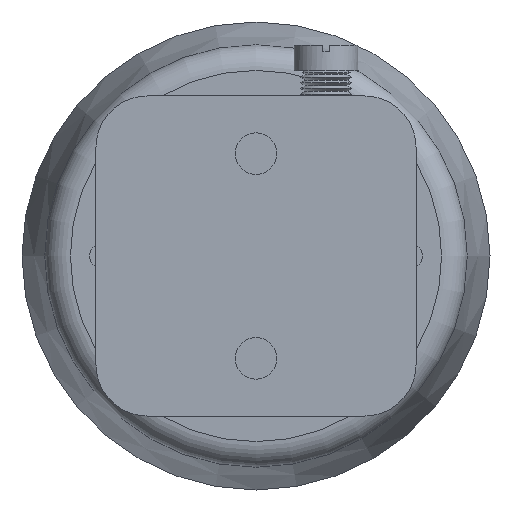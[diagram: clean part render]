
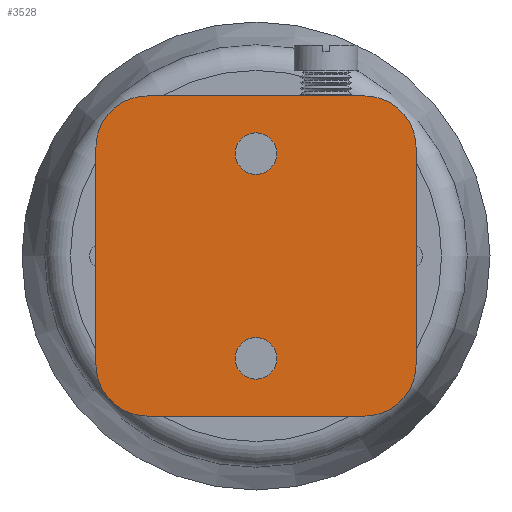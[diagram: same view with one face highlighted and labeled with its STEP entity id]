
A CAD part, front view. The second image highlights one B-rep face of the part: STEP entity #3528.
In plain terms, the highlighted planar face has unit normal (0, -1, 0).
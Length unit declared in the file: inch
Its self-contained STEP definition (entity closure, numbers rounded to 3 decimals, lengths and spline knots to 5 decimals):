
#75 = CARTESIAN_POINT ( 'NONE',  ( 1.0625, -2.255, -1.5625 ) ) ;
#198 = CARTESIAN_POINT ( 'NONE',  ( 1.0625, -2.255, -1.0625 ) ) ;
#199 = DIRECTION ( 'NONE',  ( 0., -1., 0. ) ) ;
#200 = DIRECTION ( 'NONE',  ( -1., 0., 0. ) ) ;
#289 = CIRCLE ( 'NONE', #5066, 0.203 ) ;
#292 = LINE ( 'NONE', #5192, #300 ) ;
#300 = VECTOR ( 'NONE', #5206, 39.37008 ) ;
#453 = EDGE_LOOP ( 'NONE', ( #1392, #1179, #558, #584, #599, #1187, #594, #1163 ) ) ;
#519 = VERTEX_POINT ( 'NONE', #2575 ) ;
#532 = VERTEX_POINT ( 'NONE', #2588 ) ;
#546 = EDGE_LOOP ( 'NONE', ( #1380 ) ) ;
#547 = EDGE_LOOP ( 'NONE', ( #662 ) ) ;
#558 = ORIENTED_EDGE ( 'NONE', *, *, #3912, .F. ) ;
#584 = ORIENTED_EDGE ( 'NONE', *, *, #3578, .T. ) ;
#594 = ORIENTED_EDGE ( 'NONE', *, *, #3588, .F. ) ;
#599 = ORIENTED_EDGE ( 'NONE', *, *, #3604, .F. ) ;
#662 = ORIENTED_EDGE ( 'NONE', *, *, #3581, .T. ) ;
#1072 = AXIS2_PLACEMENT_3D ( 'NONE', #2133, #2129, #2135 ) ;
#1163 = ORIENTED_EDGE ( 'NONE', *, *, #4021, .T. ) ;
#1179 = ORIENTED_EDGE ( 'NONE', *, *, #3969, .T. ) ;
#1187 = ORIENTED_EDGE ( 'NONE', *, *, #4022, .T. ) ;
#1380 = ORIENTED_EDGE ( 'NONE', *, *, #3905, .T. ) ;
#1392 = ORIENTED_EDGE ( 'NONE', *, *, #3595, .F. ) ;
#1694 = CIRCLE ( 'NONE', #2982, 0.5 ) ;
#1702 = CIRCLE ( 'NONE', #3002, 0.203 ) ;
#1712 = LINE ( 'NONE', #1834, #1715 ) ;
#1715 = VECTOR ( 'NONE', #1846, 39.37008 ) ;
#1720 = LINE ( 'NONE', #1854, #1724 ) ;
#1723 = LINE ( 'NONE', #1887, #1734 ) ;
#1724 = VECTOR ( 'NONE', #1864, 39.37008 ) ;
#1734 = VECTOR ( 'NONE', #1878, 39.37008 ) ;
#1825 = CARTESIAN_POINT ( 'NONE',  ( 0., -2.255, 1. ) ) ;
#1826 = DIRECTION ( 'NONE',  ( 0., 1., 0. ) ) ;
#1827 = DIRECTION ( 'NONE',  ( -1., 0., 0. ) ) ;
#1834 = CARTESIAN_POINT ( 'NONE',  ( 1.5625, -2.255, 1.5625 ) ) ;
#1846 = DIRECTION ( 'NONE',  ( 1., 0., 0. ) ) ;
#1854 = CARTESIAN_POINT ( 'NONE',  ( -1.5625, -2.255, -1.5625 ) ) ;
#1864 = DIRECTION ( 'NONE',  ( 0., 0., 1. ) ) ;
#1878 = DIRECTION ( 'NONE',  ( 0., 0., -1. ) ) ;
#1887 = CARTESIAN_POINT ( 'NONE',  ( 1.5625, -2.255, -1.5625 ) ) ;
#2007 = CIRCLE ( 'NONE', #5007, 0.5 ) ;
#2011 = CIRCLE ( 'NONE', #5001, 0.5 ) ;
#2129 = DIRECTION ( 'NONE',  ( 0., 1., 0. ) ) ;
#2133 = CARTESIAN_POINT ( 'NONE',  ( -1.5625, -2.255, -1.5625 ) ) ;
#2134 = PLANE ( 'NONE',  #1072 ) ;
#2135 = DIRECTION ( 'NONE',  ( -1., 0., 0. ) ) ;
#2215 = FACE_OUTER_BOUND ( 'NONE', #453, .T. ) ;
#2216 = FACE_BOUND ( 'NONE', #547, .T. ) ;
#2218 = FACE_BOUND ( 'NONE', #546, .T. ) ;
#2575 = CARTESIAN_POINT ( 'NONE',  ( -1.5625, -2.255, -1.0625 ) ) ;
#2588 = CARTESIAN_POINT ( 'NONE',  ( -1.0625, -2.255, -1.5625 ) ) ;
#2606 = VERTEX_POINT ( 'NONE', #75 ) ;
#2611 = VERTEX_POINT ( 'NONE', #3126 ) ;
#2612 = VERTEX_POINT ( 'NONE', #3122 ) ;
#2840 = CARTESIAN_POINT ( 'NONE',  ( -0.203, -2.255, -1. ) ) ;
#2982 = AXIS2_PLACEMENT_3D ( 'NONE', #198, #199, #200 ) ;
#3002 = AXIS2_PLACEMENT_3D ( 'NONE', #1825, #1826, #1827 ) ;
#3122 = CARTESIAN_POINT ( 'NONE',  ( 1.5625, -2.255, 1.0625 ) ) ;
#3126 = CARTESIAN_POINT ( 'NONE',  ( -1.0625, -2.255, 1.5625 ) ) ;
#3528 = ADVANCED_FACE ( 'NONE', ( #2216, #2218, #2215 ), #2134, .F. ) ;
#3578 = EDGE_CURVE ( 'NONE', #2606, #5222, #1694, .T. ) ;
#3581 = EDGE_CURVE ( 'NONE', #3739, #3739, #1702, .T. ) ;
#3588 = EDGE_CURVE ( 'NONE', #2611, #5219, #1712, .T. ) ;
#3595 = EDGE_CURVE ( 'NONE', #519, #5286, #1720, .T. ) ;
#3604 = EDGE_CURVE ( 'NONE', #2612, #5222, #1723, .T. ) ;
#3739 = VERTEX_POINT ( 'NONE', #4536 ) ;
#3825 = VERTEX_POINT ( 'NONE', #2840 ) ;
#3905 = EDGE_CURVE ( 'NONE', #3825, #3825, #289, .T. ) ;
#3912 = EDGE_CURVE ( 'NONE', #2606, #532, #292, .T. ) ;
#3969 = EDGE_CURVE ( 'NONE', #519, #532, #5956, .T. ) ;
#4021 = EDGE_CURVE ( 'NONE', #2611, #5286, #2011, .T. ) ;
#4022 = EDGE_CURVE ( 'NONE', #2612, #5219, #2007, .T. ) ;
#4119 = CARTESIAN_POINT ( 'NONE',  ( -1.0625, -2.255, -1.0625 ) ) ;
#4120 = DIRECTION ( 'NONE',  ( 0., -1., 0. ) ) ;
#4121 = DIRECTION ( 'NONE',  ( -1., 0., 0. ) ) ;
#4273 = CARTESIAN_POINT ( 'NONE',  ( -1.0625, -2.255, 1.0625 ) ) ;
#4274 = DIRECTION ( 'NONE',  ( 0., -1., 0. ) ) ;
#4275 = DIRECTION ( 'NONE',  ( -1., 0., 0. ) ) ;
#4276 = CARTESIAN_POINT ( 'NONE',  ( 1.0625, -2.255, 1.0625 ) ) ;
#4277 = DIRECTION ( 'NONE',  ( 0., -1., 0. ) ) ;
#4278 = DIRECTION ( 'NONE',  ( -1., 0., 0. ) ) ;
#4454 = CARTESIAN_POINT ( 'NONE',  ( 1.5625, -2.255, -1.0625 ) ) ;
#4470 = CARTESIAN_POINT ( 'NONE',  ( 1.0625, -2.255, 1.5625 ) ) ;
#4491 = CARTESIAN_POINT ( 'NONE',  ( -1.5625, -2.255, 1.0625 ) ) ;
#4536 = CARTESIAN_POINT ( 'NONE',  ( -0.203, -2.255, 1. ) ) ;
#4953 = AXIS2_PLACEMENT_3D ( 'NONE', #4119, #4120, #4121 ) ;
#5001 = AXIS2_PLACEMENT_3D ( 'NONE', #4273, #4274, #4275 ) ;
#5007 = AXIS2_PLACEMENT_3D ( 'NONE', #4276, #4277, #4278 ) ;
#5066 = AXIS2_PLACEMENT_3D ( 'NONE', #5183, #5184, #5185 ) ;
#5183 = CARTESIAN_POINT ( 'NONE',  ( 0., -2.255, -1. ) ) ;
#5184 = DIRECTION ( 'NONE',  ( 0., 1., 0. ) ) ;
#5185 = DIRECTION ( 'NONE',  ( -1., 0., 0. ) ) ;
#5192 = CARTESIAN_POINT ( 'NONE',  ( 1.5625, -2.255, -1.5625 ) ) ;
#5206 = DIRECTION ( 'NONE',  ( -1., 0., 0. ) ) ;
#5219 = VERTEX_POINT ( 'NONE', #4470 ) ;
#5222 = VERTEX_POINT ( 'NONE', #4454 ) ;
#5286 = VERTEX_POINT ( 'NONE', #4491 ) ;
#5956 = CIRCLE ( 'NONE', #4953, 0.5 ) ;
